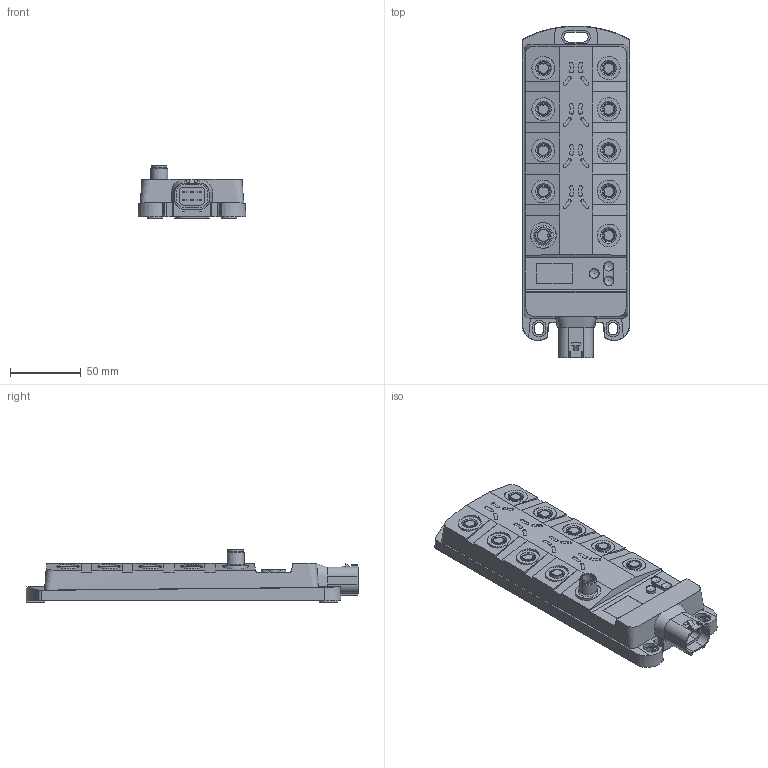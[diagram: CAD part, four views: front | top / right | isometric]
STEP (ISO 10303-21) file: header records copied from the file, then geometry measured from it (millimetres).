
FILE_DESCRIPTION( ( 'STEP AP203' ), '1' );
FILE_NAME( 'p:/temp/worker_29/temp/exporttempdir_1364_83_Dfhzs/format_5/CR2040.stp', '2021-10-15T08:12:26', ( 'License CC BY-ND 4.0' ), ( 'CADENAS' ), ' ', 'PARTsolutions', ' ' );
FILE_SCHEMA( ( 'CONFIG_CONTROL_DESIGN' ) );
Length unit declared in the file: millimetre
Products named in the file (1): _CR2040
Bounding box: 76 x 234.05 x 37.15 mm (x, y, z)
Volume: 347961.7 mm3; surface area: 56472.3 mm2
Topology: 1 solids, 1 shells, 584 faces, 1461 edges, 958 vertices
Faces by surface type: plane 310, cylinder 219, cone 40, torus 10, sphere 3, bspline 2
Full cylindrical faces by diameter (mm): 2.35 x3, 2.85 x2, 7 x1, 9.376 x9, 10.7 x1, 12 x1, 16.16 x4
Entity records: 17885 total; most frequent: CARTESIAN_POINT 3748, DIRECTION 2998, ORIENTED_EDGE 2830, EDGE_CURVE 1415, AXIS2_PLACEMENT_3D 1108, VERTEX_POINT 953, LINE 782, VECTOR 782
